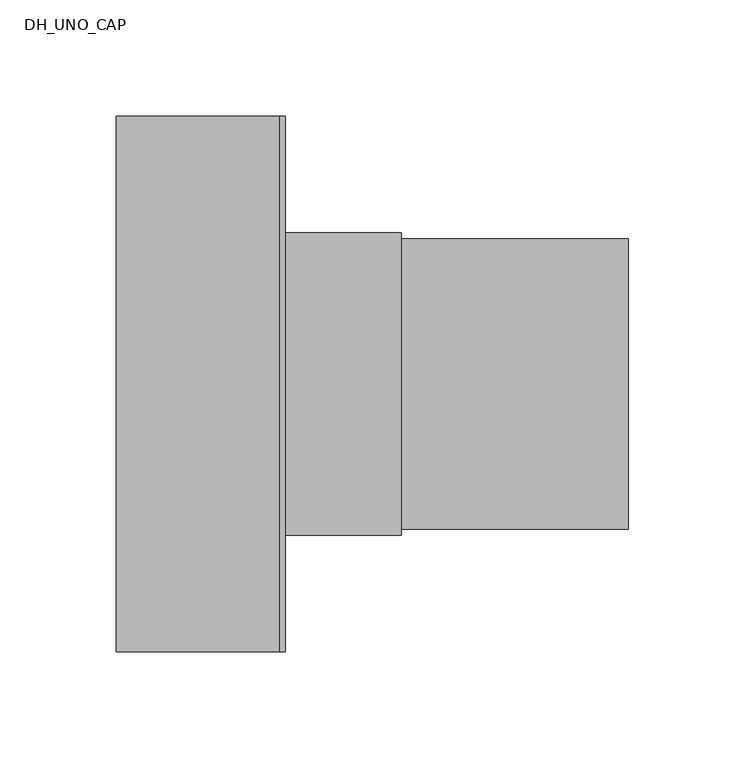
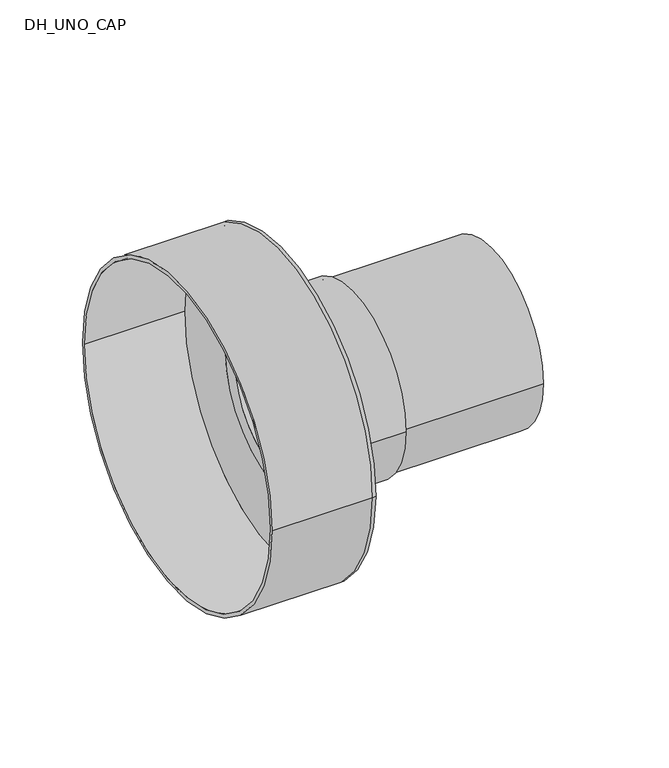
"""IFC4 building model written with IfcOpenShell, lengths in millimetres: pipe fitting geometry, DH_UNO_CAP : INSULPEX UNO ++ 11 Heating - Rubber Cap."""

from ifc_helpers import new_model, si_unit, point, frame, origin, origin_2d, place, context, project, spatial, polyline, circle_curve, trimmed, segment, composite_curve, outline, extrude, source, transform, mapped, element, save
from ifc_brep_helpers import plane_surface, cylinder_surface, revolved_surface, advanced_brep


def dh_uno_cap_f899c086(model_context):
    return source(origin(), model_context, "Body", "SolidModel", [
        extrude(outline(composite_curve([segment(trimmed(circle_curve(origin_2d(), 62.5), [point((-62.5, 0.0))], [point((62.5, 0.0))], False, "CARTESIAN"), True, "CONTINUOUS"), segment(trimmed(circle_curve(origin_2d(), 62.5), [point((62.5, 0.0))], [point((-62.5, 0.0))], False, "CARTESIAN"), True, "CONTINUOUS")], self_intersect=False), holes=[composite_curve([segment(trimmed(circle_curve(origin_2d(), 51.1), [point((-51.1, 0.0))], [point((51.1, 0.0))], True, "CARTESIAN"), True, "CONTINUOUS"), segment(trimmed(circle_curve(origin_2d(), 51.1), [point((51.1, 0.0))], [point((-51.1, 0.0))], True, "CARTESIAN"), True, "CONTINUOUS")], self_intersect=False)]), frame((0.0, 0.0, 0.0), z_axis=(1.0, 0.0, 0.0), x_axis=(0.0, 1.0, 0.0)), (0.0, 0.0, 1.0), 150.0),
        advanced_brep(
        [(-70.0, -115.0, 0.0), (-70.0, 115.0, 0.0), (-70.0, -112.5, 0.0), (-70.0, 112.5, 0.0), (0.0, -112.5, 0.0), (0.0, 112.5, 0.0), (0.0, -115.0, 0.0), (0.0, 115.0, 0.0), (0.0, 62.5, 0.0), (0.0, -62.5, 0.0), (2.5, -115.0, 0.0), (2.5, 115.0, 0.0), (2.5, -62.5, 0.0), (2.5, 62.5, 0.0)],
        [
            (0, 1, circle_curve(frame((-70.0, 0.0, 0.0), z_axis=(-1.0, 0.0, 0.0), x_axis=(0.0, 1.0, 0.0)), 115.0)),
            (1, 0, circle_curve(frame((-70.0, 0.0, 0.0), z_axis=(-1.0, 0.0, 0.0), x_axis=(0.0, 1.0, 0.0)), 115.0)),
            (2, 3, circle_curve(frame((-70.0, 0.0, 0.0), z_axis=(1.0, 0.0, 0.0), x_axis=(0.0, 1.0, 0.0)), 112.5)),
            (3, 2, circle_curve(frame((-70.0, 0.0, 0.0), z_axis=(1.0, 0.0, 0.0), x_axis=(0.0, 1.0, 0.0)), 112.5)),
            (2, 4),
            (4, 5, circle_curve(frame((0.0, 0.0, 0.0), z_axis=(1.0, 0.0, 0.0), x_axis=(0.0, 1.0, 0.0)), 112.5)),
            (5, 3),
            (5, 4, circle_curve(frame((0.0, 0.0, 0.0), z_axis=(1.0, 0.0, 0.0), x_axis=(0.0, 1.0, 0.0)), 112.5)),
            (0, 6),
            (6, 7, circle_curve(frame((0.0, 0.0, 0.0), z_axis=(-1.0, 0.0, 0.0), x_axis=(0.0, 1.0, 0.0)), 115.0)),
            (7, 1),
            (7, 6, circle_curve(frame((0.0, 0.0, 0.0), z_axis=(-1.0, 0.0, 0.0), x_axis=(0.0, 1.0, 0.0)), 115.0)),
            (8, 9, circle_curve(frame((0.0, 0.0, 0.0), z_axis=(1.0, 0.0, 0.0), x_axis=(0.0, 1.0, 0.0)), 62.5)),
            (9, 8, circle_curve(frame((0.0, 0.0, 0.0), z_axis=(1.0, 0.0, 0.0), x_axis=(0.0, 1.0, 0.0)), 62.5)),
            (10, 11, circle_curve(frame((2.5, 0.0, 0.0), z_axis=(1.0, 0.0, 0.0), x_axis=(0.0, 1.0, 0.0)), 115.0)),
            (11, 10, circle_curve(frame((2.5, 0.0, 0.0), z_axis=(1.0, 0.0, 0.0), x_axis=(0.0, 1.0, 0.0)), 115.0)),
            (12, 13, circle_curve(frame((2.5, 0.0, 0.0), z_axis=(-1.0, 0.0, 0.0), x_axis=(0.0, 1.0, 0.0)), 62.5)),
            (13, 12, circle_curve(frame((2.5, 0.0, 0.0), z_axis=(-1.0, 0.0, 0.0), x_axis=(0.0, 1.0, 0.0)), 62.5)),
            (11, 7),
            (6, 10),
            (8, 13),
            (12, 9),
        ],
        [
            plane_surface(frame((-70.0, 0.0, 0.0), z_axis=(-1.0, 0.0, 0.0), x_axis=(0.0, 0.0, 1.0))),
            revolved_surface(polyline([(0.0, 112.5, 0.0), (-70.0, 112.5, 0.0)]), (-70.0, 0.0, 0.0), (1.0, 0.0, 0.0)),
            cylinder_surface(frame((-70.0, 0.0, 0.0), z_axis=(-1.0, 0.0, 0.0), x_axis=(0.0, 1.0, 0.0)), 115.0),
            plane_surface(frame((0.0, 0.0, 0.0), z_axis=(-1.0, 0.0, 0.0), x_axis=(0.0, 0.0, 1.0))),
            plane_surface(frame((2.5, 0.0, 0.0), z_axis=(1.0, 0.0, 0.0), x_axis=(0.0, 0.0, 1.0))),
            cylinder_surface(frame((0.0, 0.0, 0.0), z_axis=(-1.0, 0.0, 0.0), x_axis=(0.0, 1.0, 0.0)), 115.0),
            revolved_surface(polyline([(0.0, 62.5, 0.0), (2.5, 62.5, 0.0)]), (0.0, 0.0, 0.0), (-1.0, 0.0, 0.0)),
        ],
        [
            (0, [[1, 2], [3, 4]]),
            (1, [[-3, 5, 6, 7]]),
            (1, [[-4, -7, 8, -5]]),
            (2, [[-1, 9, 10, 11]]),
            (2, [[-2, -11, 12, -9]]),
            (3, [[-6, -8], [13, 14]]),
            (4, [[15, 16], [17, 18]]),
            (5, [[-16, 19, -10, 20]]),
            (5, [[-15, -20, -12, -19]]),
            (6, [[21, -17, 22, -13]]),
            (6, [[-21, -14, -22, -18]]),
        ],
    ),
        extrude(outline(composite_curve([segment(trimmed(circle_curve(origin_2d(), 65.0), [point((-65.0, 0.0))], [point((65.0, 0.0))], False, "CARTESIAN"), True, "CONTINUOUS"), segment(trimmed(circle_curve(origin_2d(), 65.0), [point((65.0, 0.0))], [point((-65.0, 0.0))], False, "CARTESIAN"), True, "CONTINUOUS")], self_intersect=False), holes=[composite_curve([segment(trimmed(circle_curve(origin_2d(), 62.5), [point((-62.5, 0.0))], [point((62.5, 0.0))], True, "CARTESIAN"), True, "CONTINUOUS"), segment(trimmed(circle_curve(origin_2d(), 62.5), [point((62.5, 0.0))], [point((-62.5, 0.0))], True, "CARTESIAN"), True, "CONTINUOUS")], self_intersect=False)]), frame((2.5, 0.0, 0.0), z_axis=(1.0, 0.0, 0.0), x_axis=(0.0, 1.0, 0.0)), (0.0, 0.0, 1.0), 50.0),
    ])


if __name__ == "__main__":
    model = new_model("IFC4")
    model_context = context("Model", 3, world=origin())
    ifc_project = project(units=[si_unit("LENGTHUNIT", "METRE", prefix="MILLI")], contexts=[model_context])
    site = spatial("IfcSite", under=ifc_project)
    building = spatial("IfcBuilding", under=site)
    placement = place(None, origin())
    dh_uno_cap_shape = dh_uno_cap_f899c086(model_context)
    element("IfcPipeFitting", 1, ObjectType="DH_UNO_CAP : INSULPEX UNO ++ 11 Heating - Rubber Cap", at=placement, inside=building, context=model_context, shape_type="MappedRepresentation", body=[
        mapped(dh_uno_cap_shape, transform((0.0, 0.0, 0.0), x_axis=(1.0, 0.0, 0.0), y_axis=(0.0, 1.0, 0.0), z_axis=(0.0, 0.0, 1.0))),
    ])
    save(model, "model.ifc")
